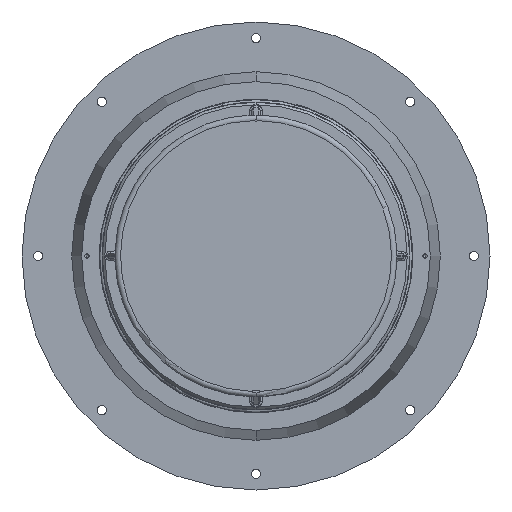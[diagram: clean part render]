
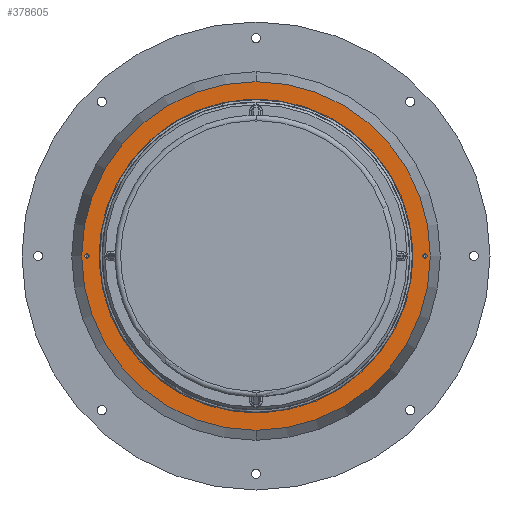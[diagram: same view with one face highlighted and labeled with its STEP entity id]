
A CAD part, front view. The second image highlights one B-rep face of the part: STEP entity #378605.
In plain terms, the highlighted planar face has unit normal (0, -1, 0).
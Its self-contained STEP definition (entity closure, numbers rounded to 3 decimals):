
#3323 = DIRECTION ( 'NONE',  ( 0., 0., -1. ) ) ;
#8935 = CARTESIAN_POINT ( 'NONE',  ( 0., -724.968, 0. ) ) ;
#10525 = EDGE_CURVE ( 'NONE', #210130, #19330, #176967, .T. ) ;
#13301 = VERTEX_POINT ( 'NONE', #275368 ) ;
#15021 = EDGE_LOOP ( 'NONE', ( #381190, #253968 ) ) ;
#19330 = VERTEX_POINT ( 'NONE', #100557 ) ;
#26136 = EDGE_LOOP ( 'NONE', ( #125966, #421941 ) ) ;
#34021 = CIRCLE ( 'NONE', #445186, 305. ) ;
#37881 = EDGE_CURVE ( 'NONE', #476749, #327315, #388006, .T. ) ;
#46162 = DIRECTION ( 'NONE',  ( 0., 0., -1. ) ) ;
#58237 = CARTESIAN_POINT ( 'NONE',  ( -330., -724.968, 0. ) ) ;
#65121 = CARTESIAN_POINT ( 'NONE',  ( -330., -724.968, 4.25 ) ) ;
#67037 = CARTESIAN_POINT ( 'NONE',  ( -330., -724.968, -4.25 ) ) ;
#67651 = EDGE_CURVE ( 'NONE', #19330, #210130, #343774, .T. ) ;
#73265 = CARTESIAN_POINT ( 'NONE',  ( 0., -724.968, 340. ) ) ;
#93152 = ORIENTED_EDGE ( 'NONE', *, *, #67651, .T. ) ;
#95490 = DIRECTION ( 'NONE',  ( 0., 0., -1. ) ) ;
#100557 = CARTESIAN_POINT ( 'NONE',  ( 0., -724.968, -340. ) ) ;
#101510 = ORIENTED_EDGE ( 'NONE', *, *, #106086, .F. ) ;
#106018 = CARTESIAN_POINT ( 'NONE',  ( 305., -724.968, 0. ) ) ;
#106086 = EDGE_CURVE ( 'NONE', #13301, #272928, #34021, .T. ) ;
#123938 = CIRCLE ( 'NONE', #132745, 4.25 ) ;
#125966 = ORIENTED_EDGE ( 'NONE', *, *, #176873, .F. ) ;
#130087 = DIRECTION ( 'NONE',  ( 0., -1., 0. ) ) ;
#132745 = AXIS2_PLACEMENT_3D ( 'NONE', #155905, #414940, #193121 ) ;
#133691 = CIRCLE ( 'NONE', #388439, 305. ) ;
#135780 = CARTESIAN_POINT ( 'NONE',  ( 0., -724.968, 0. ) ) ;
#143257 = DIRECTION ( 'NONE',  ( 0., 0., -1. ) ) ;
#155905 = CARTESIAN_POINT ( 'NONE',  ( -330., -724.968, 0. ) ) ;
#157475 = VERTEX_POINT ( 'NONE', #65121 ) ;
#173089 = DIRECTION ( 'NONE',  ( 0., 0., -1. ) ) ;
#176873 = EDGE_CURVE ( 'NONE', #327315, #476749, #268729, .T. ) ;
#176967 = CIRCLE ( 'NONE', #386235, 340. ) ;
#179719 = FACE_BOUND ( 'NONE', #270815, .T. ) ;
#193121 = DIRECTION ( 'NONE',  ( 0., 0., -1. ) ) ;
#202929 = FACE_BOUND ( 'NONE', #15021, .T. ) ;
#210130 = VERTEX_POINT ( 'NONE', #73265 ) ;
#225223 = DIRECTION ( 'NONE',  ( 0., -1., 0. ) ) ;
#225588 = DIRECTION ( 'NONE',  ( 0., 0., -1. ) ) ;
#226042 = DIRECTION ( 'NONE',  ( 0., -1., 0. ) ) ;
#226622 = CARTESIAN_POINT ( 'NONE',  ( 330., -724.968, 0. ) ) ;
#239479 = EDGE_CURVE ( 'NONE', #349103, #157475, #441807, .T. ) ;
#253968 = ORIENTED_EDGE ( 'NONE', *, *, #446306, .F. ) ;
#268138 = DIRECTION ( 'NONE',  ( 0., -1., 0. ) ) ;
#268729 = CIRCLE ( 'NONE', #365333, 4.25 ) ;
#270815 = EDGE_LOOP ( 'NONE', ( #101510, #440829 ) ) ;
#272928 = VERTEX_POINT ( 'NONE', #458907 ) ;
#275368 = CARTESIAN_POINT ( 'NONE',  ( 0., -724.968, -305. ) ) ;
#278309 = FACE_OUTER_BOUND ( 'NONE', #340955, .T. ) ;
#310713 = AXIS2_PLACEMENT_3D ( 'NONE', #106018, #365195, #143257 ) ;
#314129 = AXIS2_PLACEMENT_3D ( 'NONE', #226622, #226042, #225588 ) ;
#317430 = DIRECTION ( 'NONE',  ( 0., -1., 0. ) ) ;
#327315 = VERTEX_POINT ( 'NONE', #406791 ) ;
#340955 = EDGE_LOOP ( 'NONE', ( #93152, #406043 ) ) ;
#343774 = CIRCLE ( 'NONE', #432592, 340. ) ;
#344338 = EDGE_CURVE ( 'NONE', #272928, #13301, #133691, .T. ) ;
#349103 = VERTEX_POINT ( 'NONE', #67037 ) ;
#352001 = CARTESIAN_POINT ( 'NONE',  ( 0., -724.968, 0. ) ) ;
#358507 = CARTESIAN_POINT ( 'NONE',  ( 330., -724.968, 4.25 ) ) ;
#363628 = DIRECTION ( 'NONE',  ( 0., 0., -1. ) ) ;
#363766 = CARTESIAN_POINT ( 'NONE',  ( 0., -724.968, 0. ) ) ;
#364215 = DIRECTION ( 'NONE',  ( 0., -1., 0. ) ) ;
#365195 = DIRECTION ( 'NONE',  ( 0., -1., 0. ) ) ;
#365333 = AXIS2_PLACEMENT_3D ( 'NONE', #447045, #225223, #3323 ) ;
#376670 = FACE_BOUND ( 'NONE', #26136, .T. ) ;
#378605 = ADVANCED_FACE ( 'NONE', ( #376670, #202929, #278309, #179719 ), #437988, .T. ) ;
#381190 = ORIENTED_EDGE ( 'NONE', *, *, #239479, .F. ) ;
#386235 = AXIS2_PLACEMENT_3D ( 'NONE', #363766, #364215, #363628 ) ;
#387678 = AXIS2_PLACEMENT_3D ( 'NONE', #58237, #317430, #95490 ) ;
#388006 = CIRCLE ( 'NONE', #314129, 4.25 ) ;
#388439 = AXIS2_PLACEMENT_3D ( 'NONE', #8935, #268138, #46162 ) ;
#389204 = DIRECTION ( 'NONE',  ( 0., 0., -1. ) ) ;
#394903 = DIRECTION ( 'NONE',  ( 0., -1., 0. ) ) ;
#406043 = ORIENTED_EDGE ( 'NONE', *, *, #10525, .T. ) ;
#406791 = CARTESIAN_POINT ( 'NONE',  ( 330., -724.968, -4.25 ) ) ;
#414940 = DIRECTION ( 'NONE',  ( 0., -1., 0. ) ) ;
#421941 = ORIENTED_EDGE ( 'NONE', *, *, #37881, .F. ) ;
#432592 = AXIS2_PLACEMENT_3D ( 'NONE', #352001, #130087, #389204 ) ;
#437988 = PLANE ( 'NONE',  #310713 ) ;
#440829 = ORIENTED_EDGE ( 'NONE', *, *, #344338, .F. ) ;
#441807 = CIRCLE ( 'NONE', #387678, 4.25 ) ;
#445186 = AXIS2_PLACEMENT_3D ( 'NONE', #135780, #394903, #173089 ) ;
#446306 = EDGE_CURVE ( 'NONE', #157475, #349103, #123938, .T. ) ;
#447045 = CARTESIAN_POINT ( 'NONE',  ( 330., -724.968, 0. ) ) ;
#458907 = CARTESIAN_POINT ( 'NONE',  ( 0., -724.968, 305. ) ) ;
#476749 = VERTEX_POINT ( 'NONE', #358507 ) ;
